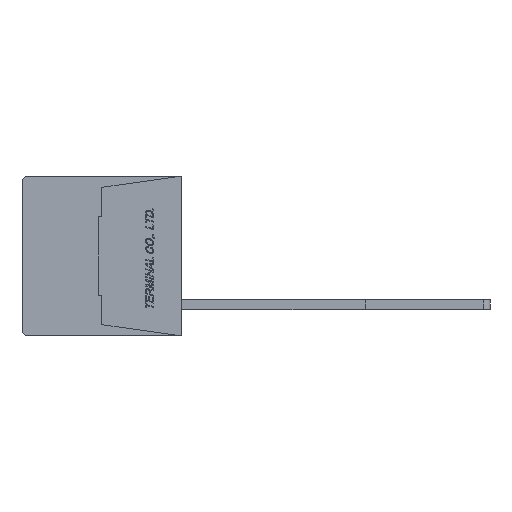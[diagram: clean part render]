
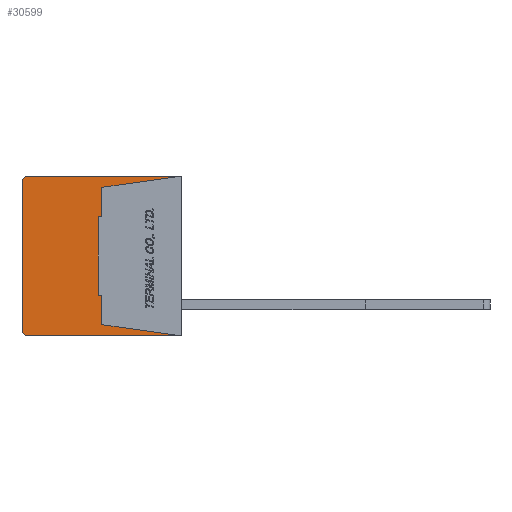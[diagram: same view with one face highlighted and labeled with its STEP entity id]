
A CAD part, left-side view. The second image highlights one B-rep face of the part: STEP entity #30599.
In plain terms, the highlighted planar face has unit normal (-1, 0, 0).
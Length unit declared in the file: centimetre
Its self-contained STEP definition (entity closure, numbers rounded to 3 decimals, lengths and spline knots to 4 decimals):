
#1593=CIRCLE('',#52374,0.05);
#1594=CIRCLE('',#52377,0.05);
#2946=VERTEX_POINT('',#43176);
#2947=VERTEX_POINT('',#43178);
#2948=VERTEX_POINT('',#43182);
#2949=VERTEX_POINT('',#43186);
#2950=VERTEX_POINT('',#43190);
#2951=VERTEX_POINT('',#43194);
#2952=VERTEX_POINT('',#43197);
#2953=VERTEX_POINT('',#43199);
#2954=VERTEX_POINT('',#43201);
#2955=VERTEX_POINT('',#43203);
#2956=VERTEX_POINT('',#43205);
#2957=VERTEX_POINT('',#43207);
#6120=VECTOR('',#35551,1.);
#6124=VECTOR('',#35560,1.);
#6127=VECTOR('',#35568,1.);
#6128=VECTOR('',#35569,1.);
#6129=VECTOR('',#35570,1.);
#6130=VECTOR('',#35571,1.);
#6131=VECTOR('',#35572,1.);
#6132=VECTOR('',#35573,1.);
#6133=VECTOR('',#35574,1.);
#6134=VECTOR('',#35575,1.);
#9711=LINE('',#43177,#6120);
#9715=LINE('',#43187,#6124);
#9718=LINE('',#43195,#6127);
#9719=LINE('',#43196,#6128);
#9720=LINE('',#43198,#6129);
#9721=LINE('',#43200,#6130);
#9722=LINE('',#43202,#6131);
#9723=LINE('',#43204,#6132);
#9724=LINE('',#43206,#6133);
#9725=LINE('',#43208,#6134);
#13797=EDGE_CURVE('',#2947,#2946,#9711,.T.);
#13800=EDGE_CURVE('',#2948,#2946,#1593,.T.);
#13802=EDGE_CURVE('',#2948,#2949,#9715,.T.);
#13804=EDGE_CURVE('',#2950,#2949,#1594,.T.);
#13806=EDGE_CURVE('',#2950,#2951,#9718,.T.);
#13807=EDGE_CURVE('',#2952,#2947,#9719,.T.);
#13808=EDGE_CURVE('',#2951,#2953,#9720,.T.);
#13809=EDGE_CURVE('',#2953,#2954,#9721,.T.);
#13810=EDGE_CURVE('',#2954,#2955,#9722,.T.);
#13811=EDGE_CURVE('',#2955,#2956,#9723,.T.);
#13812=EDGE_CURVE('',#2956,#2957,#9724,.T.);
#13813=EDGE_CURVE('',#2957,#2952,#9725,.T.);
#20095=ORIENTED_EDGE('',*,*,#13807,.T.);
#20096=ORIENTED_EDGE('',*,*,#13797,.T.);
#20097=ORIENTED_EDGE('',*,*,#13800,.F.);
#20098=ORIENTED_EDGE('',*,*,#13802,.T.);
#20099=ORIENTED_EDGE('',*,*,#13804,.F.);
#20100=ORIENTED_EDGE('',*,*,#13806,.T.);
#20101=ORIENTED_EDGE('',*,*,#13808,.T.);
#20102=ORIENTED_EDGE('',*,*,#13809,.T.);
#20103=ORIENTED_EDGE('',*,*,#13810,.T.);
#20104=ORIENTED_EDGE('',*,*,#13811,.T.);
#20105=ORIENTED_EDGE('',*,*,#13812,.T.);
#20106=ORIENTED_EDGE('',*,*,#13813,.T.);
#26703=EDGE_LOOP('',(#20095,#20096,#20097,#20098,#20099,#20100,#20101,#20102,
#20103,#20104,#20105,#20106));
#28708=FACE_BOUND('',#26703,.T.);
#30599=ADVANCED_FACE('',(#28708),#32206,.F.);
#32206=PLANE('',#52371);
#35437=DIRECTION('',(1.,0.,0.));
#35551=DIRECTION('',(0.,1.,0.));
#35556=DIRECTION('',(1.,0.,0.));
#35557=DIRECTION('',(0.,0.,-0.05));
#35560=DIRECTION('',(0.,0.,-1.));
#35564=DIRECTION('',(1.,0.,0.));
#35565=DIRECTION('',(0.,0.,-0.05));
#35568=DIRECTION('',(0.,-1.,0.));
#35569=DIRECTION('',(0.,-0.99,0.139));
#35570=DIRECTION('',(0.,0.99,0.139));
#35571=DIRECTION('',(0.,0.,1.));
#35572=DIRECTION('',(0.,1.,0.));
#35573=DIRECTION('',(0.,0.,1.));
#35574=DIRECTION('',(0.,-1.,0.));
#35575=DIRECTION('',(0.,0.,1.));
#42743=CARTESIAN_POINT('',(-0.889,0.6345,0.));
#43176=CARTESIAN_POINT('',(-0.889,1.23,0.64));
#43177=CARTESIAN_POINT('',(-0.889,0.,0.64));
#43178=CARTESIAN_POINT('',(-0.889,0.,0.64));
#43182=CARTESIAN_POINT('',(-0.889,1.28,0.59));
#43183=CARTESIAN_POINT('',(-0.889,1.23,0.59));
#43186=CARTESIAN_POINT('',(-0.889,1.28,-0.59));
#43187=CARTESIAN_POINT('',(-0.889,1.28,0.59));
#43190=CARTESIAN_POINT('',(-0.889,1.23,-0.64));
#43191=CARTESIAN_POINT('',(-0.889,1.23,-0.59));
#43194=CARTESIAN_POINT('',(-0.889,0.,-0.64));
#43195=CARTESIAN_POINT('',(-0.889,1.23,-0.64));
#43196=CARTESIAN_POINT('',(-0.889,0.64,0.55));
#43197=CARTESIAN_POINT('',(-0.889,0.64,0.55));
#43198=CARTESIAN_POINT('',(-0.889,0.,-0.64));
#43199=CARTESIAN_POINT('',(-0.889,0.64,-0.55));
#43200=CARTESIAN_POINT('',(-0.889,0.64,-0.55));
#43201=CARTESIAN_POINT('',(-0.889,0.64,-0.315));
#43202=CARTESIAN_POINT('',(-0.889,0.64,-0.315));
#43203=CARTESIAN_POINT('',(-0.889,0.67,-0.315));
#43204=CARTESIAN_POINT('',(-0.889,0.67,-0.315));
#43205=CARTESIAN_POINT('',(-0.889,0.67,0.315));
#43206=CARTESIAN_POINT('',(-0.889,0.67,0.315));
#43207=CARTESIAN_POINT('',(-0.889,0.64,0.315));
#43208=CARTESIAN_POINT('',(-0.889,0.64,0.315));
#52371=AXIS2_PLACEMENT_3D('',#42743,#35437,$);
#52374=AXIS2_PLACEMENT_3D('',#43183,#35556,#35557);
#52377=AXIS2_PLACEMENT_3D('',#43191,#35564,#35565);
